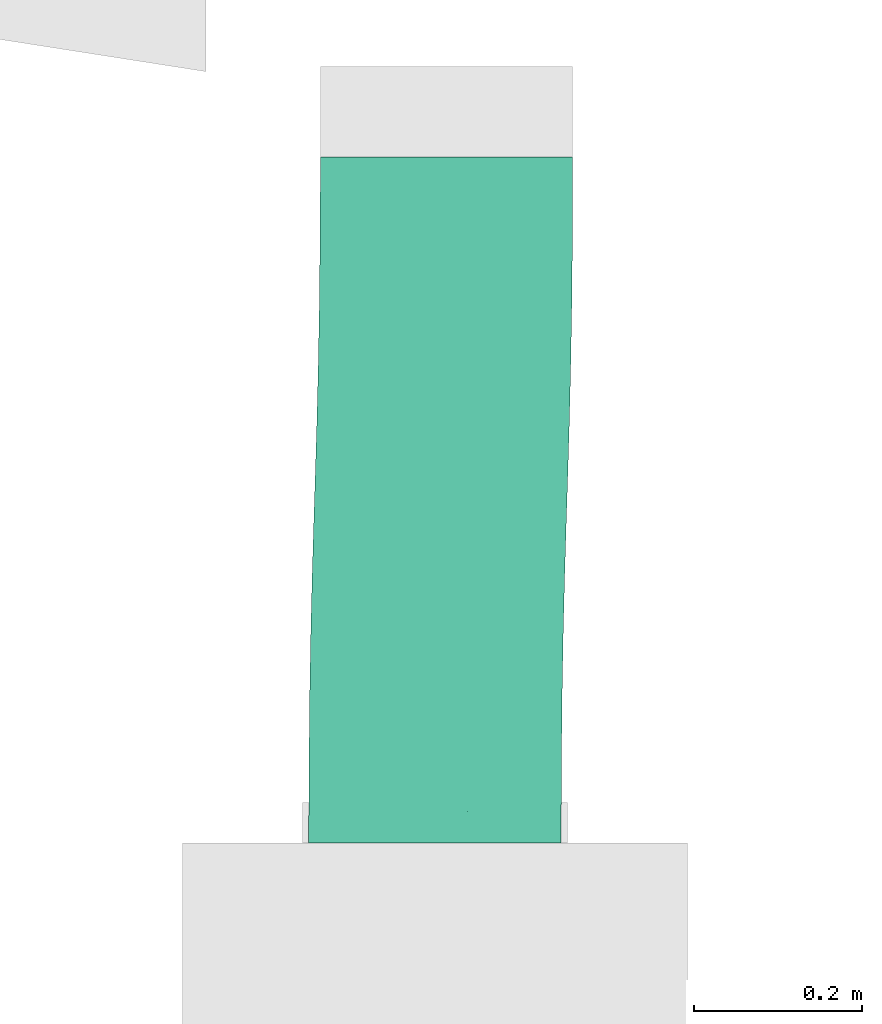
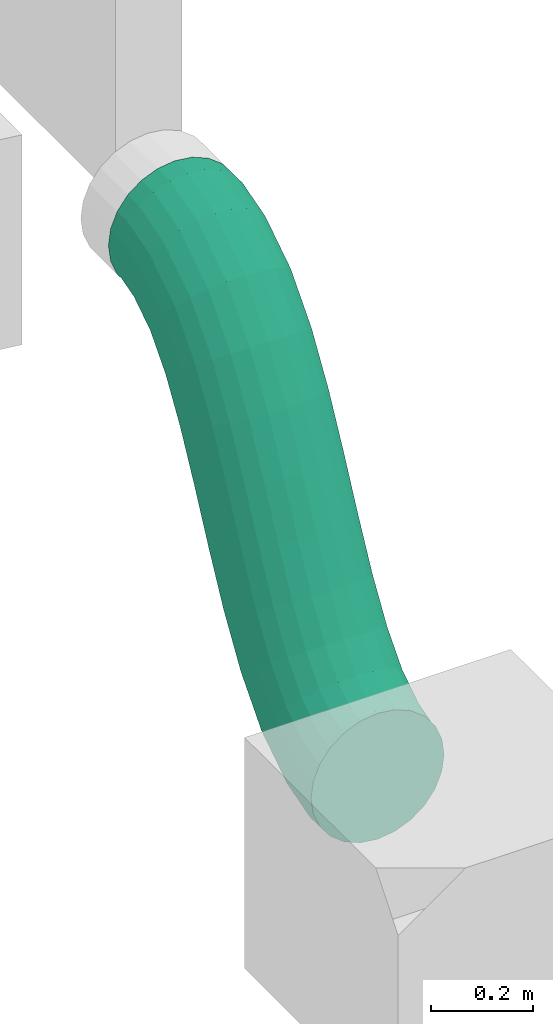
# One storey, part 51 of 60: 1 flow segment.
"""IFC2X3 building model written with IfcOpenShell, lengths in millimetres."""

from ifc_helpers import new_model, entity, si_unit, converted_unit, derived_unit, direction, frame, origin, place, context, subcontext, project, spatial, faceted_brep, type_object, element, save


model = new_model("IFC2X3")

# Units and contexts
model_context = context("Model", 3, precision=0.01, world=origin(), true_north=direction((6.123233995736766e-17, 1.0)))
body_context = subcontext(model_context, "Body", "Model", "MODEL_VIEW")
ifc_project = project(units=[si_unit("LENGTHUNIT", "METRE", prefix="MILLI"), converted_unit("PLANEANGLEUNIT", "DEGREE", entity("IfcPlaneAngleMeasure", 0.017453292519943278), si_unit("PLANEANGLEUNIT", "RADIAN"), dimensions=[0, 0, 0, 0, 0, 0, 0]), si_unit("AREAUNIT", "SQUARE_METRE"), derived_unit("THERMALTRANSMITTANCEUNIT", [(si_unit("MASSUNIT", "GRAM", prefix="KILO"), 1), (si_unit("THERMODYNAMICTEMPERATUREUNIT", "KELVIN"), -1), (si_unit("TIMEUNIT", "SECOND"), -3)])], contexts=[model_context])

# Site, building, storey
site_placement = place(None, origin())
site = spatial("IfcSite", under=ifc_project, at=site_placement, Name="Default", CompositionType="ELEMENT")
building_placement = place(site_placement, origin())
building = spatial("IfcBuilding", under=site, at=building_placement, Name="Praça Pedro II, 1301 - Centro (Sul), Teresina - PI, 64001-100", CompositionType="ELEMENT")
storey_placement = place(building_placement, frame((0.0, 0.0, 6040.0)))
storey = spatial("IfcBuildingStorey", under=building, at=storey_placement, Name="2PAV", CompositionType="ELEMENT", Elevation=6040.0)

# Flow segment
duct_segment_type = type_object("IfcDuctSegmentType", Name="Duto flexível redondo:Flexível - Redondo", PredefinedType="FLEXIBLESEGMENT")
flow_segment_placement = place(storey_placement, frame((29771.730736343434, -59589.90897878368, 2510.904727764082)))
element("IfcFlowSegment", 1, at=flow_segment_placement, inside=storey, type_object=duct_segment_type, Name="Duto flexível redondo:Flexível - Redondo", ObjectType="Duto flexível redondo:Flexível - Redondo", context=body_context, shape_type="Brep", body=[
    faceted_brep([(45.52925505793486, 0.0, 45.52925505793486), (76.59527223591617, 0.0, 21.691461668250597), (112.77241547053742, 0.0, 6.706398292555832), (151.59527223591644, 0.0, 1.5952722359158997), (190.41812900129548, 0.0, 6.706398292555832), (226.59527223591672, 0.0, 21.691461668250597), (257.66128941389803, 0.0, 45.529255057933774), (281.49908280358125, 0.0, 76.59527223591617), (296.48414617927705, 0.0, 112.77241547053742), (301.595272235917, 0.0, 151.59527223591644), (296.48414617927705, 0.0, 190.4181290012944), (281.49908280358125, 0.0, 226.59527223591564), (257.66128941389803, 0.0, 257.66128941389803), (226.59527223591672, 0.0, 281.4990828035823), (190.41812900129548, 0.0, 296.48414617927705), (151.59527223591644, 0.0, 301.595272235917), (112.77241547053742, 0.0, 296.48414617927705), (76.59527223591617, 0.0, 281.4990828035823), (45.52925505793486, 0.0, 257.66128941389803), (21.69146166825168, 0.0, 226.59527223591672), (6.706398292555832, 0.0, 190.4181290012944), (1.5952722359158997, 0.0, 151.59527223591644), (6.706398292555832, 0.0, 112.7724154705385), (21.69146166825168, 0.0, 76.59527223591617), (6.706398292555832, 34.53706825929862, 112.77241547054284), (21.69146166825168, 39.46106969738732, 76.59527223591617), (45.52925505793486, 43.6641302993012, 45.52925505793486), (1.5952722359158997, 29.227688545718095, 151.5952722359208), (76.59527223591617, 46.85981843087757, 21.691461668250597), (112.77241547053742, 48.830353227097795, 6.706398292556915), (151.59527223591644, 49.44144599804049, 1.5952722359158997), (190.41812900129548, 48.65145178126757, 6.706398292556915), (226.59527223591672, 46.51420737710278, 21.691461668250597), (257.66128941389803, 43.17536245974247, 45.529255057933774), (281.49908280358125, 38.86245379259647, 76.59527223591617), (296.48414617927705, 33.86939897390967, 112.77241547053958), (301.595272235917, 28.53646643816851, 151.59527223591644), (296.48414617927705, 23.22708672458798, 190.41812900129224), (281.49908280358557, 18.30308528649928, 226.59527223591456), (257.66128941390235, 14.100024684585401, 257.6612894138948), (190.41812900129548, 8.933801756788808, 296.48414617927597), (151.59527223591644, 8.322708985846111, 301.595272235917), (226.59527223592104, 10.904336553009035, 281.49908280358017), (76.5952722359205, 11.249947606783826, 281.49908280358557), (45.52925505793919, 14.588792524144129, 257.6612894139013), (112.77241547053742, 9.112703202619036, 296.48414617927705), (6.706398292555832, 23.894756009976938, 190.41812900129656), (21.69146166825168, 18.901701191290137, 226.59527223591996), (90.33776809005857, 814.8877009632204, 839.1914616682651), (59.27175091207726, 814.8877009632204, 863.0292550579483), (35.433957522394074, 814.8877009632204, 894.0952722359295), (20.44889414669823, 814.8877009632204, 930.2724154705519), (15.337768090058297, 814.8877009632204, 969.0952722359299), (20.44889414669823, 814.8877009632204, 1007.9181290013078), (35.433957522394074, 814.8877009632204, 1044.0952722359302), (59.27175091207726, 814.8877009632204, 1075.1612894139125), (90.33776809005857, 814.8877009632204, 1098.9990828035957), (126.51491132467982, 814.8877009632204, 1113.9841461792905), (165.33776809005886, 814.8877009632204, 1119.0952722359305), (204.16062485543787, 814.8877009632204, 1113.9841461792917), (240.33776809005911, 814.8877009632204, 1098.9990828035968), (271.40378526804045, 814.8877009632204, 1075.1612894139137), (295.2415786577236, 814.8877009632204, 1044.0952722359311), (310.22664203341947, 814.8877009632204, 1007.9181290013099), (315.3377680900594, 814.8877009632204, 969.095272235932), (310.22664203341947, 814.8877009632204, 930.272415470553), (295.2415786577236, 814.8877009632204, 894.0952722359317), (271.40378526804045, 814.8877009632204, 863.0292550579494), (240.33776809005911, 814.8877009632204, 839.1914616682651), (204.16062485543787, 814.8877009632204, 824.2063982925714), (165.33776809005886, 814.8877009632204, 819.0952722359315), (126.51491132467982, 814.8877009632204, 824.2063982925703), (1.918560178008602, 98.06509202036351, 170.82670555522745), (7.079072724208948, 113.89029142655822, 134.94170343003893), (22.109937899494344, 128.56682782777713, 101.48917234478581), (45.98682708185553, 141.09451952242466, 72.74884701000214), (77.08256973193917, 150.6196250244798, 50.67933310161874), (113.2780423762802, 156.49302413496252, 36.78463152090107), (152.1065833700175, 158.3144544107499, 32.01164321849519), (190.92209181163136, 155.95978838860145, 36.685639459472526), (227.07935494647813, 149.58949266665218, 50.48809512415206), (258.11431504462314, 139.63769237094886, 72.47839566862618), (281.91199086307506, 126.78258624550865, 101.15793845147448), (296.85061012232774, 111.90022852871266, 134.5722600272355), (301.9121306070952, 96.00482730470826, 170.44422960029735), (296.7516180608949, 80.17962789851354, 206.32923172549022), (281.72075288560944, 65.50309149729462, 239.78176281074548), (257.8438637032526, 52.9753998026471, 268.52208814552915), (190.55264840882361, 37.576895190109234, 304.4863036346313), (151.72410741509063, 35.755464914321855, 309.2592919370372), (226.74812105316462, 43.45029430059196, 290.5916020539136), (76.75133583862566, 44.48042665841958, 290.7828400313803), (45.71637574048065, 54.43222695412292, 268.7925394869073), (112.90859897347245, 38.11013093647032, 304.58529569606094), (6.980080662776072, 82.1696907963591, 206.6986751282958), (21.918699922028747, 67.28733307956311, 240.11299670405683), (2.8024019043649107, 181.91777470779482, 223.403807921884), (8.058495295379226, 206.8110119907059, 193.20462454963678), (23.17800363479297, 229.89738795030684, 165.02521033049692), (47.13055741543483, 249.60360421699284, 140.7859457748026), (78.2838296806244, 264.58671471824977, 122.13869670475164), (114.51477640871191, 273.82564523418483, 110.3542423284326), (153.35431845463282, 276.6907779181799, 106.23567373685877), (192.1556052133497, 272.986858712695, 110.06366457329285), (228.27439311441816, 262.9663035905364, 121.57734358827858), (259.2492464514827, 247.31199682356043, 139.9920725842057), (282.9692801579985, 227.0907535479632, 164.05291821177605), (297.81801313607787, 203.68061807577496, 192.12017360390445), (302.7835287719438, 178.67695245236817, 222.28110168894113), (297.5274353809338, 153.78371516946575, 252.48028506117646), (282.4079270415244, 130.69733920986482, 280.6596992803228), (258.45537326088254, 110.99112294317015, 304.8989638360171), (227.30210099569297, 96.00801244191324, 323.5462129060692), (191.07115426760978, 86.76908192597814, 335.3306672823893), (152.23161222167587, 83.90394924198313, 339.44923587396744), (113.43032546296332, 87.6078684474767, 335.6212450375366), (77.31153756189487, 97.62842356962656, 324.1075660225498), (46.33668422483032, 113.28273033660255, 305.6928370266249), (7.767917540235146, 156.91410908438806, 253.56473600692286), (22.616650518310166, 133.50397361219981, 281.63199139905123), (4.120188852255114, 254.828904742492, 301.7950143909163), (9.47643673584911, 285.2635364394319, 277.55372240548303), (24.688829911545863, 313.48908788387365, 254.8997494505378), (48.72066892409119, 337.5820343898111, 235.37692634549), (79.93422365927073, 355.9004814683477, 220.31570122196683), (116.20234194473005, 367.19605722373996, 210.74247168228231), (155.05341145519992, 370.69898683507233, 207.30963749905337), (193.83979600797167, 366.17055143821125, 210.25114064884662), (229.91826759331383, 353.9193564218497, 219.36652255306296), (260.8301379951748, 334.78030048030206, 234.03458499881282), (284.4688143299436, 310.0576786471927, 253.25572377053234), (299.22335987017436, 281.4362967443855, 275.72005002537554), (304.08827672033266, 250.866654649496, 299.89665705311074), (298.73202883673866, 220.4320229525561, 324.1379490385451), (283.51963566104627, 192.20647150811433, 346.7919219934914), (259.48779664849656, 168.11352500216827, 366.31474509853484), (228.27424191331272, 149.79507792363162, 381.375970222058), (192.00612362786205, 138.49950216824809, 390.9491997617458), (153.1550541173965, 134.99657255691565, 394.38203394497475), (114.36866956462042, 139.52500795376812, 391.44053079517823), (78.29019797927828, 151.77620297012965, 382.32514889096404), (47.37832757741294, 170.91525891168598, 367.65708644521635), (8.985105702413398, 224.25926264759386, 325.97162141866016), (23.739651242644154, 195.63788074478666, 348.4359476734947), (5.745392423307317, 319.8955680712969, 398.4735168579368), (11.165976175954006, 352.9059511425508, 378.05937341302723), (26.438035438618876, 383.5202945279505, 358.95475762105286), (50.52080461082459, 409.6522813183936, 342.4616174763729), (81.77308277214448, 429.52105979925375, 329.70393322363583), (118.06507881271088, 441.7726055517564, 321.55111996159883), (156.92355317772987, 445.5719959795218, 318.5587784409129), (195.7003650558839, 440.6603089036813, 320.93083179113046), (231.7529387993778, 427.3722676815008, 328.50562849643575), (262.6243510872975, 406.6134303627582, 340.76695867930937), (286.210766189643, 379.7984774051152, 356.8792329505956), (300.9048088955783, 348.75480353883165, 375.7444264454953), (305.7051044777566, 315.5979838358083, 396.0769074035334), (300.2845207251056, 282.5876007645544, 416.49105084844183), (285.01246146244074, 251.97325737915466, 435.5956666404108), (260.9296922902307, 225.84127058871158, 452.08880678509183), (229.67741412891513, 205.97249210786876, 464.84649103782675), (193.38541808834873, 193.72094635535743, 472.99930429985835), (154.52694372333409, 189.9215559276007, 475.9916458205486), (115.7501318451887, 194.8332430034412, 473.61959247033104), (79.69755810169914, 208.12128422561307, 466.04479576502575), (48.82614581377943, 228.88012154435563, 453.7834655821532), (10.545688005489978, 286.73874836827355, 418.80599781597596), (25.23973071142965, 255.69507450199, 437.67119131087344), (7.554217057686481, 380.2691331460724, 506.07508751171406), (13.004911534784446, 414.2845289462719, 487.4521410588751), (28.30489595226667, 445.830936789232, 470.0087092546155), (52.41150165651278, 472.7585211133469, 454.93353314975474), (83.68190330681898, 493.23221154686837, 443.25396108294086), (119.98507470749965, 505.85675992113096, 435.76593658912), (158.84701472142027, 509.7718241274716, 432.9797561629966), (197.61934635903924, 504.7105990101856, 435.08529339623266), (233.6597992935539, 491.0179986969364, 441.93905940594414), (264.5122762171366, 469.6271512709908, 453.07398136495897), (288.074231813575, 441.99580763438, 467.7312327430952), (302.7399577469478, 410.00699819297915, 484.9119460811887), (307.5100090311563, 375.84070744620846, 503.4452841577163), (302.05931455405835, 341.8253116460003, 522.0682306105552), (286.7593301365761, 310.2789038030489, 539.5116624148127), (262.6527244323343, 283.351319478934, 554.5868385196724), (231.3823227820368, 262.87762904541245, 566.2664105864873), (195.07915138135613, 250.2530806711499, 573.7544350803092), (156.21721136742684, 246.33801646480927, 576.5406155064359), (117.44487972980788, 251.39924158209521, 574.4350782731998), (81.40442679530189, 265.0918418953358, 567.5813122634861), (50.551949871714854, 286.4826893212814, 556.4463903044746), (12.324268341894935, 346.10284239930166, 524.6084255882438), (26.989994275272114, 314.11403295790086, 541.7891389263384), (14.873725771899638, 473.0623893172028, 598.6223138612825), (30.17371018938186, 504.6087971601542, 581.1788820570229), (9.423031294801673, 439.04699351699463, 617.2452603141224), (54.28031589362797, 531.5363814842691, 566.1037059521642), (85.55071754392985, 552.0100719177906, 554.4241338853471), (121.85388894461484, 564.6346202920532, 546.9361093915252), (160.71582895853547, 568.5496844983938, 544.1499289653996), (199.48816059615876, 563.4884593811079, 546.2554661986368), (235.52861353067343, 549.7958590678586, 553.1092322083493), (266.38109045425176, 528.405011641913, 564.2441541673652), (304.608771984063, 468.7848585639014, 596.0821188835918), (309.3788232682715, 434.61856781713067, 614.6154569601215), (289.9430460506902, 500.7736680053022, 578.9014055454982), (303.92812879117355, 400.6031720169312, 633.2384034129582), (288.6281443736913, 369.05676417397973, 650.6818352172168), (264.52153866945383, 342.1291798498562, 665.7570113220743), (233.25113701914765, 321.6554894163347, 677.4365833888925), (196.94796561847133, 309.03094104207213, 684.9246078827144), (158.0860256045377, 305.1158768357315, 687.7107883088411), (119.31369396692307, 310.1771019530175, 685.605251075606), (83.27324103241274, 323.8697022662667, 678.7514850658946), (52.42076410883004, 345.2605496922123, 667.6165631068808), (28.858808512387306, 372.8918933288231, 652.9593117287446), (14.193082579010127, 404.8807027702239, 635.778598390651), (16.648519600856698, 532.30010019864, 704.1994936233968), (31.920578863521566, 562.9144435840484, 685.0948778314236), (11.227935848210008, 499.28971712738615, 724.6136370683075), (56.00334803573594, 589.0464303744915, 668.6017376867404), (87.25562619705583, 608.9152088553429, 655.8440534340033), (123.54762223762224, 621.1667546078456, 647.6912401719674), (162.40609660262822, 624.966145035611, 644.6988986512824), (201.18290848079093, 620.0544579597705, 647.0709520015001), (237.23548222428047, 606.76641673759, 654.6457487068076), (268.1068945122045, 586.0075794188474, 666.9070788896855), (306.3873523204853, 528.1489525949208, 701.8845466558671), (311.1876479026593, 494.9921328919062, 722.217027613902), (291.6933096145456, 559.1926264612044, 683.0193531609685), (305.76706415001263, 461.9817498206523, 742.6311710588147), (290.49500488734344, 431.3674064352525, 761.7357868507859), (266.41223571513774, 405.23541964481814, 778.228926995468), (235.15995755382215, 385.366641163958, 790.9866112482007), (198.8679615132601, 373.11509541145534, 799.1394245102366), (160.00948714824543, 369.31570498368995, 802.1317660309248), (121.23267527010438, 374.2273920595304, 799.7597126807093), (85.18010152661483, 387.5154332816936, 792.184915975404), (54.308689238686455, 408.2742706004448, 779.9235857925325), (30.722274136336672, 435.0892235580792, 763.8113115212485), (16.02823143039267, 466.1328974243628, 744.94611802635), (18.201011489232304, 594.4556780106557, 796.5525954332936), (33.41340466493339, 622.6812294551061, 773.898622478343), (12.84476360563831, 564.0210463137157, 820.793887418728), (57.445243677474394, 646.7741759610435, 754.3757993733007), (88.65879841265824, 665.0926230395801, 739.3145742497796), (124.92691669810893, 676.3881987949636, 729.7413447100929), (163.77798620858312, 679.8911284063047, 726.3085105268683), (202.56437076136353, 675.3626930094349, 729.2500136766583), (238.64284234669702, 663.1114979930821, 738.3653955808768), (269.554712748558, 643.9724420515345, 753.0334580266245), (307.94793462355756, 590.6284383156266, 794.7189230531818), (312.81285147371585, 560.0587962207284, 818.8955300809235), (293.19338908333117, 619.249820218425, 772.2545967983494), (307.4566035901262, 529.6241645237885, 843.1368220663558), (292.2442104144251, 501.3986130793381, 865.7907950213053), (268.2123714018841, 477.3056665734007, 885.3136181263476), (236.99881666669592, 458.987219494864, 900.3748432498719), (200.73069838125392, 447.69164373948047, 909.9480727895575), (161.87962887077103, 444.1887141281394, 913.3809069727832), (123.09324431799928, 448.7171495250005, 910.4394038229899), (87.01477273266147, 460.96834454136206, 901.3240219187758), (56.102902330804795, 480.1074004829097, 886.6559594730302), (32.464225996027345, 504.83002231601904, 867.4348207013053), (17.709680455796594, 533.4514042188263, 844.9704944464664), (19.4056049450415, 661.103985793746, 868.2102594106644), (34.525113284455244, 684.1903617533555, 840.030845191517), (14.149511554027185, 636.210748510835, 898.4094427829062), (58.477667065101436, 703.8965780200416, 815.7915806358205), (89.63093933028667, 718.8796885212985, 797.1443315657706), (125.86188605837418, 728.1186190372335, 785.3598771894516), (164.7014281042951, 730.9837517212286, 781.2413085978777), (203.50271486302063, 727.279832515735, 785.0692994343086), (239.62150276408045, 717.2592773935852, 796.5829784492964), (270.596356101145, 701.6049706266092, 814.9977074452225), (309.16512278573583, 657.9735918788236, 867.1258084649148), (314.1306384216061, 632.9699262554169, 897.2867365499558), (294.31638980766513, 681.3837273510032, 839.0585530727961), (308.8745450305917, 608.0766889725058, 927.4859199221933), (293.75503669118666, 584.990313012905, 955.6653341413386), (269.80248291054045, 565.2840967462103, 979.9045986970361), (238.6492106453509, 550.3009862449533, 998.5518477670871), (202.41826391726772, 541.0620557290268, 1010.3363021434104), (163.57872187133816, 538.1969230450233, 1014.4548707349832), (124.7774351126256, 541.9008422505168, 1010.6268798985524), (88.65864721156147, 551.9213973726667, 999.1132008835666), (57.6837938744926, 567.5757041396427, 980.6984718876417), (33.963760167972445, 587.7969474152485, 956.637626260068), (19.115027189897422, 611.2070828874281, 928.5703708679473), (20.18142226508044, 734.7080730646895, 914.3613127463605), (35.212287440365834, 749.3846094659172, 880.9087816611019), (15.020909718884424, 718.8828736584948, 950.246314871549), (59.089176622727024, 761.9123011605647, 852.1684563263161), (90.18491927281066, 771.4374066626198, 830.0989424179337), (126.3803919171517, 777.3108057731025, 816.204240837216), (165.2089329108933, 779.1322360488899, 811.431252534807), (204.02444135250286, 776.7775700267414, 816.1052487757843), (240.18170448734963, 770.4072743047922, 829.907704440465), (271.21666458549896, 760.4554740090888, 851.898004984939), (309.95295966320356, 732.7180101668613, 913.9918693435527), (315.014480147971, 716.8226089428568, 949.8638389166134), (295.0143404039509, 747.6003678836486, 880.5775477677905), (309.853967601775, 700.9974095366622, 985.7488410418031), (294.82310242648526, 686.3208731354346, 1019.2013721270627), (270.9462132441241, 673.7931814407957, 1047.9416974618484), (239.8504705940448, 664.2680759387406, 1070.0112113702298), (203.65499794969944, 658.3946768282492, 1083.9059129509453), (164.82645695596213, 656.5732465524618, 1088.6789012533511), (126.0109485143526, 658.9279125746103, 1084.0049050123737), (89.85368537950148, 665.2982082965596, 1070.2024493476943), (58.81872528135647, 675.2500085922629, 1048.212148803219), (35.02104946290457, 688.105114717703, 1019.5326060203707), (20.082430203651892, 702.9874724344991, 986.1182844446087), (20.4488941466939, 791.6606142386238, 930.272415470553), (35.43395752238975, 796.5846156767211, 894.0952722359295), (15.337768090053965, 786.3512345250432, 969.095272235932), (59.271750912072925, 800.7876762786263, 863.0292550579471), (126.5149113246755, 805.9538992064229, 824.2063982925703), (165.3377680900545, 806.5649919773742, 819.0952722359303), (90.33776809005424, 803.9833644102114, 839.1914616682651), (240.33776809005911, 803.6377533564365, 839.1914616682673), (271.40378526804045, 800.2989084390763, 863.0292550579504), (204.16062485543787, 805.7749977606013, 824.2063982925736), (310.22664203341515, 790.9929449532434, 930.272415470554), (315.3377680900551, 785.6600124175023, 969.0952722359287), (295.2415786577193, 795.9859997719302, 894.0952722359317), (310.22664203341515, 780.3506327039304, 1007.9181290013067), (295.2415786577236, 775.4266312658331, 1044.095272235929), (271.40378526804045, 771.2235706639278, 1075.1612894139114), (240.33776809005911, 768.0278825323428, 1098.9990828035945), (204.16062485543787, 766.0573477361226, 1113.9841461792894), (165.3377680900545, 765.4462549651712, 1119.0952722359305), (126.51491132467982, 766.2362491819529, 1113.9841461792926), (90.33776809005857, 768.3734935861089, 1098.9990828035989), (59.27175091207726, 771.7123385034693, 1075.1612894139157), (35.43395752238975, 776.0252471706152, 1044.0952722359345), (20.4488941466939, 781.018301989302, 1007.9181290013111)], [[[0, 1, 2, 3, 4, 5, 6, 7, 8, 9, 10, 11, 12, 13, 14, 15, 16, 17, 18, 19, 20, 21, 22, 23]], [[23, 22, 24, 25]], [[0, 23, 25, 26]], [[21, 27, 24, 22]], [[2, 1, 28, 29]], [[3, 2, 29, 30]], [[0, 26, 28, 1]], [[3, 30, 31, 4]], [[4, 31, 32, 5]], [[5, 32, 33, 6]], [[7, 34, 35, 8]], [[8, 35, 36, 9]], [[6, 33, 34, 7]], [[37, 38, 11, 10]], [[36, 37, 10, 9]], [[11, 38, 39, 12]], [[40, 41, 15, 14]], [[42, 40, 14, 13]], [[12, 39, 42, 13]], [[17, 43, 44, 18]], [[45, 43, 17, 16]], [[15, 41, 45, 16]], [[46, 27, 21, 20]], [[47, 46, 20, 19]], [[44, 47, 19, 18]], [[48, 49, 50, 51, 52, 53, 54, 55, 56, 57, 58, 59, 60, 61, 62, 63, 64, 65, 66, 67, 68, 69, 70, 71]], [[24, 27, 72, 73]], [[25, 24, 73, 74]], [[26, 25, 74, 75]], [[29, 28, 76, 77]], [[30, 29, 77, 78]], [[75, 76, 28, 26]], [[30, 78, 79, 31]], [[31, 79, 80, 32]], [[32, 80, 81, 33]], [[33, 81, 82, 34]], [[34, 82, 83, 35]], [[84, 36, 35, 83]], [[85, 86, 38, 37]], [[84, 85, 37, 36]], [[38, 86, 87, 39]], [[88, 89, 41, 40]], [[90, 88, 40, 42]], [[42, 39, 87, 90]], [[43, 91, 92, 44]], [[93, 91, 43, 45]], [[41, 89, 93, 45]], [[94, 72, 27, 46]], [[95, 94, 46, 47]], [[44, 92, 95, 47]], [[72, 96, 97, 73]], [[73, 97, 98, 74]], [[99, 75, 74, 98]], [[76, 100, 101, 77]], [[77, 101, 102, 78]], [[100, 76, 75, 99]], [[79, 78, 102, 103]], [[80, 79, 103, 104]], [[104, 105, 81, 80]], [[82, 81, 105, 106]], [[83, 82, 106, 107]], [[84, 83, 107, 108]], [[109, 110, 86, 85]], [[108, 109, 85, 84]], [[87, 86, 110, 111]], [[112, 113, 88, 90]], [[111, 112, 90, 87]], [[89, 88, 113, 114]], [[115, 116, 91, 93]], [[114, 115, 93, 89]], [[117, 92, 91, 116]], [[118, 96, 72, 94]], [[119, 118, 94, 95]], [[119, 95, 92, 117]], [[96, 120, 121, 97]], [[97, 121, 122, 98]], [[123, 99, 98, 122]], [[100, 124, 125, 101]], [[101, 125, 126, 102]], [[124, 100, 99, 123]], [[103, 102, 126, 127]], [[104, 103, 127, 128]], [[128, 129, 105, 104]], [[106, 105, 129, 130]], [[107, 106, 130, 131]], [[108, 107, 131, 132]], [[133, 134, 110, 109]], [[132, 133, 109, 108]], [[111, 110, 134, 135]], [[136, 137, 113, 112]], [[135, 136, 112, 111]], [[114, 113, 137, 138]], [[139, 140, 116, 115]], [[138, 139, 115, 114]], [[141, 117, 116, 140]], [[142, 120, 96, 118]], [[143, 142, 118, 119]], [[143, 119, 117, 141]], [[120, 144, 145, 121]], [[121, 145, 146, 122]], [[147, 123, 122, 146]], [[124, 148, 149, 125]], [[125, 149, 150, 126]], [[148, 124, 123, 147]], [[127, 126, 150, 151]], [[128, 127, 151, 152]], [[152, 153, 129, 128]], [[130, 129, 153, 154]], [[131, 130, 154, 155]], [[132, 131, 155, 156]], [[157, 158, 134, 133]], [[156, 157, 133, 132]], [[135, 134, 158, 159]], [[160, 161, 137, 136]], [[159, 160, 136, 135]], [[138, 137, 161, 162]], [[163, 164, 140, 139]], [[162, 163, 139, 138]], [[165, 141, 140, 164]], [[166, 144, 120, 142]], [[167, 166, 142, 143]], [[167, 143, 141, 165]], [[144, 168, 169, 145]], [[145, 169, 170, 146]], [[171, 147, 146, 170]], [[148, 172, 173, 149]], [[149, 173, 174, 150]], [[172, 148, 147, 171]], [[151, 150, 174, 175]], [[152, 151, 175, 176]], [[176, 177, 153, 152]], [[154, 153, 177, 178]], [[155, 154, 178, 179]], [[156, 155, 179, 180]], [[181, 182, 158, 157]], [[180, 181, 157, 156]], [[159, 158, 182, 183]], [[184, 185, 161, 160]], [[183, 184, 160, 159]], [[162, 161, 185, 186]], [[187, 188, 164, 163]], [[186, 187, 163, 162]], [[189, 165, 164, 188]], [[190, 168, 144, 166]], [[191, 190, 166, 167]], [[191, 167, 165, 189]], [[192, 193, 170, 169]], [[194, 192, 169, 168]], [[195, 171, 170, 193]], [[196, 197, 173, 172]], [[196, 172, 171, 195]], [[198, 174, 173, 197]], [[199, 200, 176, 175]], [[198, 199, 175, 174]], [[200, 201, 177, 176]], [[202, 203, 180, 179]], [[204, 202, 179, 178]], [[201, 204, 178, 177]], [[181, 180, 203, 205]], [[182, 181, 205, 206]], [[183, 182, 206, 207]], [[185, 184, 208, 209]], [[186, 185, 209, 210]], [[207, 208, 184, 183]], [[186, 210, 211, 187]], [[187, 211, 212, 188]], [[213, 189, 188, 212]], [[189, 213, 214, 191]], [[191, 214, 215, 190]], [[194, 168, 190, 215]], [[216, 217, 193, 192]], [[218, 216, 192, 194]], [[219, 195, 193, 217]], [[220, 221, 197, 196]], [[220, 196, 195, 219]], [[222, 198, 197, 221]], [[223, 224, 200, 199]], [[222, 223, 199, 198]], [[201, 200, 224, 225]], [[226, 227, 203, 202]], [[228, 226, 202, 204]], [[225, 228, 204, 201]], [[205, 203, 227, 229]], [[206, 205, 229, 230]], [[207, 206, 230, 231]], [[209, 208, 232, 233]], [[210, 209, 233, 234]], [[231, 232, 208, 207]], [[210, 234, 235, 211]], [[211, 235, 236, 212]], [[212, 236, 237, 213]], [[213, 237, 238, 214]], [[214, 238, 239, 215]], [[218, 194, 215, 239]], [[240, 241, 217, 216]], [[242, 240, 216, 218]], [[243, 219, 217, 241]], [[244, 245, 221, 220]], [[244, 220, 219, 243]], [[246, 222, 221, 245]], [[247, 248, 224, 223]], [[246, 247, 223, 222]], [[225, 224, 248, 249]], [[250, 251, 227, 226]], [[252, 250, 226, 228]], [[249, 252, 228, 225]], [[229, 227, 251, 253]], [[230, 229, 253, 254]], [[231, 230, 254, 255]], [[233, 232, 256, 257]], [[234, 233, 257, 258]], [[255, 256, 232, 231]], [[234, 258, 259, 235]], [[235, 259, 260, 236]], [[236, 260, 261, 237]], [[237, 261, 262, 238]], [[238, 262, 263, 239]], [[242, 218, 239, 263]], [[264, 265, 241, 240]], [[266, 264, 240, 242]], [[267, 243, 241, 265]], [[268, 269, 245, 244]], [[268, 244, 243, 267]], [[270, 246, 245, 269]], [[271, 272, 248, 247]], [[270, 271, 247, 246]], [[249, 248, 272, 273]], [[274, 275, 251, 250]], [[276, 274, 250, 252]], [[273, 276, 252, 249]], [[253, 251, 275, 277]], [[254, 253, 277, 278]], [[255, 254, 278, 279]], [[257, 256, 280, 281]], [[258, 257, 281, 282]], [[279, 280, 256, 255]], [[258, 282, 283, 259]], [[259, 283, 284, 260]], [[260, 284, 285, 261]], [[261, 285, 286, 262]], [[262, 286, 287, 263]], [[266, 242, 263, 287]], [[288, 289, 265, 264]], [[290, 288, 264, 266]], [[291, 267, 265, 289]], [[292, 293, 269, 268]], [[292, 268, 267, 291]], [[294, 270, 269, 293]], [[295, 296, 272, 271]], [[294, 295, 271, 270]], [[273, 272, 296, 297]], [[298, 299, 275, 274]], [[300, 298, 274, 276]], [[297, 300, 276, 273]], [[277, 275, 299, 301]], [[278, 277, 301, 302]], [[279, 278, 302, 303]], [[281, 280, 304, 305]], [[282, 281, 305, 306]], [[303, 304, 280, 279]], [[282, 306, 307, 283]], [[283, 307, 308, 284]], [[284, 308, 309, 285]], [[285, 309, 310, 286]], [[286, 310, 311, 287]], [[290, 266, 287, 311]], [[312, 313, 289, 288]], [[314, 312, 288, 290]], [[291, 289, 313, 315]], [[316, 317, 294, 293]], [[318, 316, 293, 292]], [[291, 315, 318, 292]], [[319, 320, 297, 296]], [[321, 319, 296, 295]], [[317, 321, 295, 294]], [[322, 323, 299, 298]], [[324, 322, 298, 300]], [[300, 297, 320, 324]], [[299, 323, 325, 301]], [[301, 325, 326, 302]], [[327, 303, 302, 326]], [[304, 328, 329, 305]], [[305, 329, 330, 306]], [[328, 304, 303, 327]], [[307, 306, 330, 331]], [[308, 307, 331, 332]], [[332, 333, 309, 308]], [[310, 309, 333, 334]], [[311, 310, 334, 335]], [[290, 311, 335, 314]], [[312, 314, 52, 51]], [[313, 312, 51, 50]], [[315, 313, 50, 49]], [[316, 318, 48, 71]], [[317, 316, 71, 70]], [[315, 49, 48, 318]], [[317, 70, 69, 321]], [[321, 69, 68, 319]], [[319, 68, 67, 320]], [[324, 66, 65, 322]], [[322, 65, 64, 323]], [[324, 320, 67, 66]], [[323, 64, 63, 325]], [[325, 63, 62, 326]], [[326, 62, 61, 327]], [[328, 60, 59, 329]], [[329, 59, 58, 330]], [[327, 61, 60, 328]], [[331, 330, 58, 57]], [[332, 331, 57, 56]], [[333, 332, 56, 55]], [[335, 334, 54, 53]], [[314, 335, 53, 52]], [[55, 54, 334, 333]]]),
])

save(model, "model.ifc")
